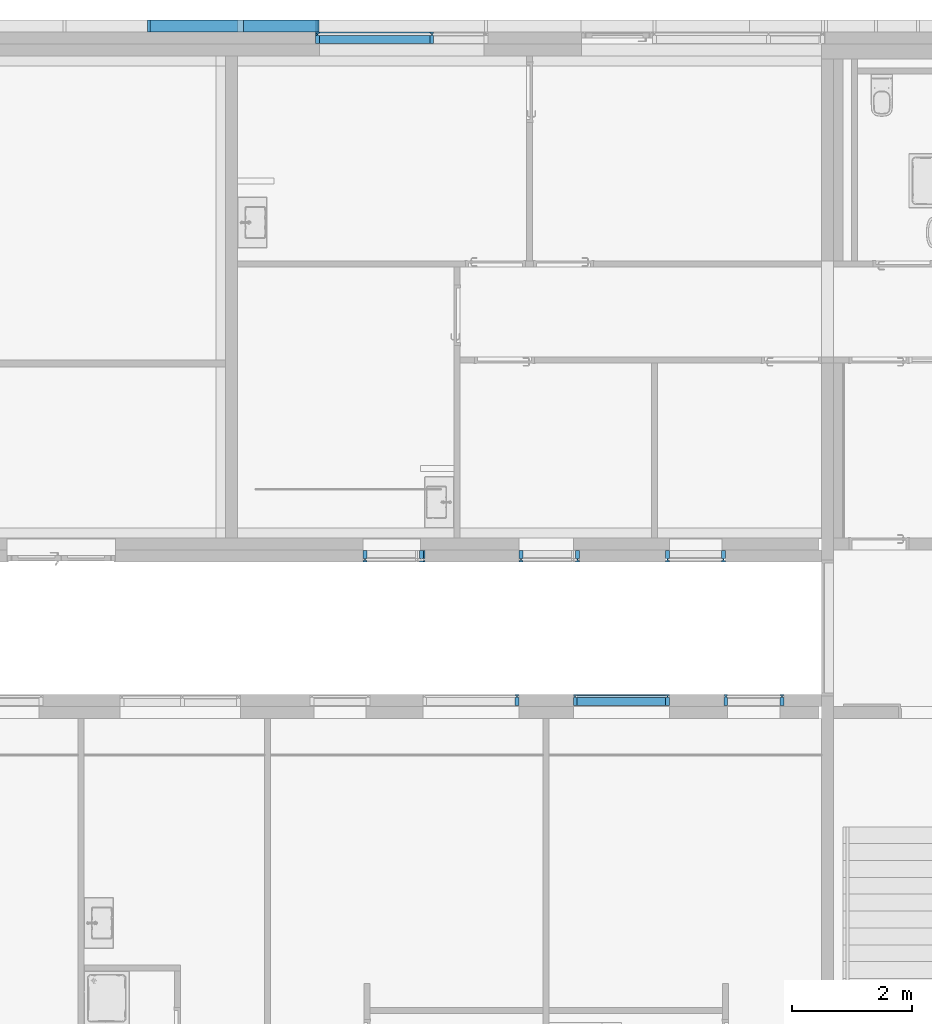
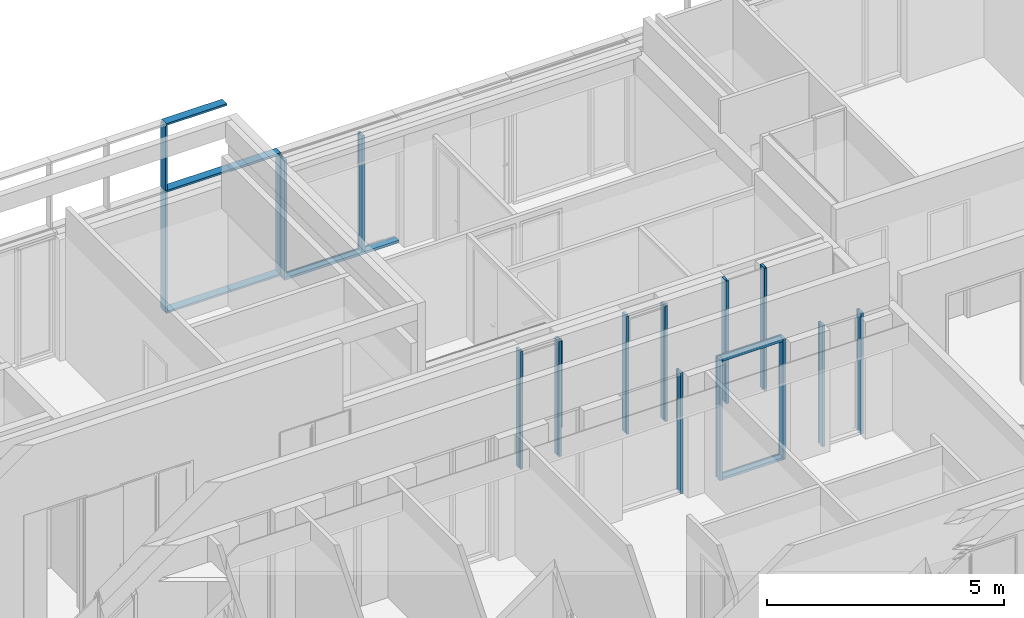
# One storey, part 15 of 240: 26 members, 8 elements without a shape of their own.
"""IFC2X3 building model written with IfcOpenShell, lengths in centimetres."""

from ifc_helpers import new_model, entity, si_unit, converted_unit, derived_unit, direction, frame, origin, origin_2d_with_axis, place, context, subcontext, project, spatial, polyline, rectangle, outline, extrude, source, transform, mapped, material, type_object, type_shapes, element, aggregate, save


model = new_model("IFC2X3")

# Units and contexts
model_context = context("Model", 3, precision=0.001, world=origin(), true_north=direction((6.12303176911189e-17, 1.0)))
body_context = subcontext(model_context, "Body", "Model", "MODEL_VIEW")
ifc_project = project(units=[si_unit("LENGTHUNIT", "METRE", prefix="CENTI"), si_unit("AREAUNIT", "SQUARE_METRE"), si_unit("VOLUMEUNIT", "CUBIC_METRE"), converted_unit("PLANEANGLEUNIT", "DEGREE", entity("IfcRatioMeasure", 0.0174532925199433), si_unit("PLANEANGLEUNIT", "RADIAN"), dimensions=[0, 0, 0, 0, 0, 0, 0]), si_unit("MASSUNIT", "GRAM", prefix="KILO"), derived_unit("MASSDENSITYUNIT", [(si_unit("MASSUNIT", "GRAM", prefix="KILO"), 1), (si_unit("LENGTHUNIT", "METRE"), -3)]), si_unit("TIMEUNIT", "SECOND"), si_unit("FREQUENCYUNIT", "HERTZ"), si_unit("THERMODYNAMICTEMPERATUREUNIT", "DEGREE_CELSIUS"), derived_unit("THERMALTRANSMITTANCEUNIT", [(si_unit("MASSUNIT", "GRAM", prefix="KILO"), 1), (si_unit("THERMODYNAMICTEMPERATUREUNIT", "KELVIN"), -1), (si_unit("TIMEUNIT", "SECOND"), -3)]), derived_unit("VOLUMETRICFLOWRATEUNIT", [(si_unit("LENGTHUNIT", "METRE"), 3), (si_unit("TIMEUNIT", "SECOND"), -1)]), si_unit("ELECTRICCURRENTUNIT", "AMPERE"), si_unit("ELECTRICVOLTAGEUNIT", "VOLT"), si_unit("POWERUNIT", "WATT"), si_unit("FORCEUNIT", "NEWTON", prefix="KILO"), si_unit("ILLUMINANCEUNIT", "LUX"), si_unit("LUMINOUSFLUXUNIT", "LUMEN"), si_unit("LUMINOUSINTENSITYUNIT", "CANDELA"), derived_unit("USERDEFINED", [(si_unit("MASSUNIT", "GRAM", prefix="KILO"), -1), (si_unit("LENGTHUNIT", "METRE"), -2), (si_unit("TIMEUNIT", "SECOND"), 3), (si_unit("LUMINOUSFLUXUNIT", "LUMEN"), 1)]), derived_unit("LINEARVELOCITYUNIT", [(si_unit("LENGTHUNIT", "METRE"), 1), (si_unit("TIMEUNIT", "SECOND"), -1)]), si_unit("PRESSUREUNIT", "PASCAL"), derived_unit("USERDEFINED", [(si_unit("LENGTHUNIT", "METRE"), -2), (si_unit("MASSUNIT", "GRAM", prefix="KILO"), 1), (si_unit("TIMEUNIT", "SECOND"), -2)])], contexts=[model_context])

# Site, building, storey
site_placement = place(None, frame((-2781.94577612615, 7442.24238424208, 0.0)))
site = spatial("IfcSite", under=ifc_project, at=site_placement, Name="Default", CompositionType="ELEMENT")
building_placement = place(site_placement, origin())
building = spatial("IfcBuilding", under=site, at=building_placement, CompositionType="ELEMENT")
storey_placement = place(building_placement, origin())
storey = spatial("IfcBuildingStorey", under=building, at=storey_placement, Name="N00 - COO", CompositionType="ELEMENT", Elevation=0.0)

# Curtain wall, members
curtain_wall_type_1 = type_object("IfcCurtainWallType", Name="Mur-rideau:07 - mur rideau trame 280 cm", PredefinedType="NOTDEFINED")
curtain_wall_1_placement = place(building_placement, origin())
curtain_wall_1 = element("IfcCurtainWall", 1, at=curtain_wall_1_placement, inside=storey, type_object=curtain_wall_type_1, Name="Mur-rideau:07 - mur rideau trame 280 cm", ObjectType="Mur-rideau:07 - mur rideau trame 280 cm")
ifc_material = material(Name="Aluminium")
member_type_1 = type_object("IfcMemberType", Name="150 x 25mm Détails", PredefinedType="MEMBER")
shared_shape_1 = source(origin(), body_context, "Body", "SweptSolid", [
    extrude(outline(polyline([(-13.3333333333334, -3.25000000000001), (0.166666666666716, -3.25000000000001), (0.166666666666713, -0.86874999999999), (3.66666666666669, -0.86874999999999), (3.66666666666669, -3.24999999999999), (5.66666666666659, -3.24999999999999), (5.66666666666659, 3.25), (3.66666666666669, 3.25), (3.66666666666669, 0.868749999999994), (0.166666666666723, 0.868749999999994), (0.166666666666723, 3.25000000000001), (-13.3333333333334, 3.24999999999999), (-13.3333333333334, -3.25000000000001)])), frame((-3.24999999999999, 1.96666666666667, -312.5), z_axis=(0.0, 0.0, 1.0), x_axis=(0.0, -1.0, 0.0)), (0.0, 0.0, 1.0), 312.5),
])
type_shapes(member_type_1, [shared_shape_1])
member_1_placement = place(building_placement, frame((-8491.99987766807, -1073.69999990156, 0.0), z_axis=(0.0, 0.0, -1.0), x_axis=(1.0, 0.0, 0.0)))
member_1 = element("IfcMember", 2, at=member_1_placement, type_object=member_type_1, material=ifc_material, Name="Meneau rectangulaire:150 x 25mm Détails", ObjectType="Meneau rectangulaire:150 x 25mm Détails", context=body_context, shape_type="MappedRepresentation", body=[
    mapped(shared_shape_1, transform((0.0, 0.0, 0.0), scale=1.0)),
])
member_type_2 = type_object("IfcMemberType", Name="150 x 25mm Détails", PredefinedType="MEMBER")
shared_shape_2 = source(origin(), body_context, "Body", "SweptSolid", [
    extrude(outline(polyline([(-13.3333333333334, -3.24999999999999), (0.166666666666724, -3.24999999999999), (0.166666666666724, -0.868749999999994), (3.66666666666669, -0.868749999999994), (3.66666666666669, -3.25), (5.6666666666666, -3.25), (5.6666666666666, 3.24999999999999), (3.66666666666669, 3.24999999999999), (3.66666666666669, 0.86874999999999), (0.166666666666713, 0.86874999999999), (0.166666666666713, 3.25000000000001), (-13.3333333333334, 3.25000000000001), (-13.3333333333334, -3.24999999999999)])), frame((-3.24999999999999, 1.96666666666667, -312.5), z_axis=(0.0, 0.0, 1.0), x_axis=(0.0, -1.0, 0.0)), (0.0, 0.0, 1.0), 312.5),
])
type_shapes(member_type_2, [shared_shape_2])
member_2_placement = place(building_placement, frame((-8591.99987766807, -1073.69999990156, 312.5), z_axis=(0.0, 0.0, 1.0), x_axis=(-1.0, 0.0, 0.0)))
member_2 = element("IfcMember", 3, at=member_2_placement, type_object=member_type_2, material=ifc_material, Name="Meneau rectangulaire:150 x 25mm Détails", ObjectType="Meneau rectangulaire:150 x 25mm Détails", context=body_context, shape_type="MappedRepresentation", body=[
    mapped(shared_shape_2, transform((0.0, 0.0, 0.0), scale=1.0)),
])
aggregate(curtain_wall_1, [member_1, member_2])

# Curtain wall, member
curtain_wall_type_2 = type_object("IfcCurtainWallType", Name="Mur-rideau:07 - mur rideau trame 280 cm RDC maintenance", PredefinedType="NOTDEFINED")
curtain_wall_2_placement = place(building_placement, origin())
curtain_wall_2 = element("IfcCurtainWall", 4, at=curtain_wall_2_placement, inside=storey, type_object=curtain_wall_type_2, Name="Mur-rideau:07 - mur rideau trame 280 cm RDC maintenance", ObjectType="Mur-rideau:07 - mur rideau trame 280 cm RDC maintenance")
member_type_3 = type_object("IfcMemberType", Name="150 x 25mm Détails", PredefinedType="MEMBER")
shared_shape_3 = source(origin(), body_context, "Body", "SweptSolid", [
    extrude(outline(polyline([(-13.3333333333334, -3.25000000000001), (0.166666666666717, -3.25000000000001), (0.166666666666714, -0.86874999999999), (3.66666666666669, -0.86874999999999), (3.66666666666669, -3.24999999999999), (5.6666666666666, -3.24999999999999), (5.6666666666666, 3.25), (3.66666666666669, 3.25), (3.66666666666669, 0.868749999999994), (0.166666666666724, 0.868749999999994), (0.166666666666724, 3.25000000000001), (-13.3333333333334, 3.24999999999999), (-13.3333333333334, -3.25000000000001)])), frame((-3.24999999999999, 1.96666666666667, -299.5), z_axis=(0.0, 0.0, 1.0), x_axis=(0.0, -1.0, 0.0)), (0.0, 0.0, 1.0), 299.5),
])
type_shapes(member_type_3, [shared_shape_3])
member_3_placement = place(building_placement, frame((-9073.74987766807, 26.2000000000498, 6.49999999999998), z_axis=(0.0, 0.0, -1.0), x_axis=(1.0, 0.0, 0.0)))
member_3 = element("IfcMember", 5, at=member_3_placement, type_object=member_type_3, material=ifc_material, Name="Meneau rectangulaire:150 x 25mm Détails", ObjectType="Meneau rectangulaire:150 x 25mm Détails", context=body_context, shape_type="MappedRepresentation", body=[
    mapped(shared_shape_3, transform((0.0, 0.0, 0.0), scale=1.0)),
])

curtain_wall_type_3 = type_object("IfcCurtainWallType", Name="Mur-rideau:07 - mur rideau trame 160cm", PredefinedType="NOTDEFINED")
curtain_wall_3_placement = place(building_placement, origin())
curtain_wall_3 = element("IfcCurtainWall", 6, at=curtain_wall_3_placement, inside=storey, type_object=curtain_wall_type_3, Name="Mur-rideau:07 - mur rideau trame 160cm", ObjectType="Mur-rideau:07 - mur rideau trame 160cm")
member_type_4 = type_object("IfcMemberType", Name="150 x 25mm Détails", PredefinedType="MEMBER")
shared_shape_4 = source(origin(), body_context, "Body", "SweptSolid", [
    extrude(outline(polyline([(-5.6666666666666, -3.24999999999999), (-3.66666666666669, -3.24999999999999), (-3.66666666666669, -0.868749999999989), (-0.166666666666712, -0.868749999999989), (-0.166666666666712, -3.25000000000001), (13.3333333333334, -3.25000000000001), (13.3333333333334, 3.24999999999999), (-0.16666666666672, 3.24999999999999), (-0.16666666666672, 0.868749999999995), (-3.66666666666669, 0.868749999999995), (-3.66666666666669, 3.25), (-5.6666666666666, 3.25), (-5.6666666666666, -3.24999999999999)])), frame((-3.24999999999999, -1.96666666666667, -312.5), z_axis=(0.0, 0.0, 1.0), x_axis=(0.0, -1.0, 0.0)), (0.0, 0.0, 1.0), 312.5),
])
type_shapes(member_type_4, [shared_shape_4])
member_4_placement = place(building_placement, frame((-8841.99987766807, -1073.69999990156, 0.0), z_axis=(0.0, 0.0, -1.0), x_axis=(-1.0, 0.0, 0.0)))
member_4 = element("IfcMember", 7, at=member_4_placement, type_object=member_type_4, material=ifc_material, Name="Meneau rectangulaire:150 x 25mm Détails", ObjectType="Meneau rectangulaire:150 x 25mm Détails", context=body_context, shape_type="MappedRepresentation", body=[
    mapped(shared_shape_4, transform((0.0, 0.0, 0.0), scale=1.0)),
])

# Member
member_type_5 = type_object("IfcMemberType", Name="150 x 25mm Détails", PredefinedType="MEMBER")
shared_shape_5 = source(origin(), body_context, "Body", "SweptSolid", [
    extrude(outline(polyline([(-13.3333333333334, -3.24999999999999), (0.166666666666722, -3.24999999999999), (0.166666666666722, -0.868749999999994), (3.66666666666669, -0.868749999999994), (3.66666666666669, -3.25), (5.66666666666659, -3.25), (5.66666666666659, 3.24999999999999), (3.66666666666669, 3.24999999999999), (3.66666666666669, 0.86874999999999), (0.166666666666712, 0.86874999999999), (0.166666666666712, 3.25000000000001), (-13.3333333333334, 3.25000000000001), (-13.3333333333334, -3.24999999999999)])), frame((-3.24999999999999, 1.96666666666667, -280.0), z_axis=(0.0, 0.0, 1.0), x_axis=(0.0, -1.0, 0.0)), (0.0, 0.0, 1.0), 280.00000003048),
])
type_shapes(member_type_5, [shared_shape_5])
member_5_placement = place(building_placement, frame((-9270.24987766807, 26.2000000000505, 0.0), z_axis=(-1.0, 0.0, 0.0), x_axis=(0.0, 0.0, -1.0)))
member_5 = element("IfcMember", 8, at=member_5_placement, type_object=member_type_5, material=ifc_material, Name="Meneau rectangulaire:150 x 25mm Détails", ObjectType="Meneau rectangulaire:150 x 25mm Détails", context=body_context, shape_type="MappedRepresentation", body=[
    mapped(shared_shape_5, transform((0.0, 0.0, 0.0), scale=1.0)),
])

member_type_6 = type_object("IfcMemberType", Name="150 x 25mm Détails", PredefinedType="MEMBER")
shared_shape_6 = source(origin(), body_context, "Body", "SweptSolid", [
    extrude(outline(polyline([(-13.3333333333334, -3.24999999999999), (0.166666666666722, -3.24999999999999), (0.166666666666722, -0.868749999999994), (3.66666666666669, -0.868749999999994), (3.66666666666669, -3.25), (5.66666666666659, -3.25), (5.66666666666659, 3.24999999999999), (3.66666666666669, 3.24999999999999), (3.66666666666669, 0.86874999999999), (0.166666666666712, 0.86874999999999), (0.166666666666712, 3.25000000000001), (-13.3333333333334, 3.25000000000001), (-13.3333333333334, -3.24999999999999)])), frame((-3.24999999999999, 1.96666666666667, -303.500000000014), z_axis=(0.0, 0.0, 1.0), x_axis=(0.0, -1.0, 0.0)), (0.0, 0.0, 1.0), 303.500000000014),
])
type_shapes(member_type_6, [shared_shape_6])
member_6_placement = place(building_placement, frame((-9270.24987766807, 26.2000000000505, 310.0), z_axis=(0.0, 0.0, 1.0), x_axis=(-1.0, 0.0, 0.0)))
member_6 = element("IfcMember", 9, at=member_6_placement, type_object=member_type_6, material=ifc_material, Name="Meneau rectangulaire:150 x 25mm Détails", ObjectType="Meneau rectangulaire:150 x 25mm Détails", context=body_context, shape_type="MappedRepresentation", body=[
    mapped(shared_shape_6, transform((0.0, 0.0, 0.0), scale=1.0)),
])

aggregate(curtain_wall_2, [member_5, member_3, member_6])

# Curtain wall, members
curtain_wall_type_4 = type_object("IfcCurtainWallType", Name="Mur-rideau:Epines - 200x50mm", PredefinedType="NOTDEFINED")
curtain_wall_4_placement = place(building_placement, origin())
curtain_wall_4 = element("IfcCurtainWall", 10, at=curtain_wall_4_placement, inside=storey, type_object=curtain_wall_type_4, Name="Mur-rideau:Epines - 200x50mm", ObjectType="Mur-rideau:Epines - 200x50mm")
member_type_7 = type_object("IfcMemberType", Name="200x50 mm", PredefinedType="MEMBER")
shared_shape_7 = source(origin(), body_context, "Body", "SweptSolid", [
    extrude(rectangle(XDim=20.0, YDim=5.0, at=origin_2d_with_axis()), frame((0.0, 0.0, -307.5), z_axis=(0.0, 0.0, 1.0), x_axis=(0.0, -1.0, 0.0)), (0.0, 0.0, 1.0), 307.5),
])
type_shapes(member_type_7, [shared_shape_7])
member_7_placement = place(building_placement, frame((-9546.99987766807, 40.0, 5.0), z_axis=(0.0, 0.0, -1.0), x_axis=(1.0, 0.0, 0.0)))
member_7 = element("IfcMember", 11, at=member_7_placement, type_object=member_type_7, material=ifc_material, Name="Meneau rectangulaire:200x50 mm", ObjectType="Meneau rectangulaire:200x50 mm", context=body_context, shape_type="MappedRepresentation", body=[
    mapped(shared_shape_7, transform((0.0, 0.0, 0.0), scale=1.0)),
])
member_8_placement = place(building_placement, frame((-9266.99987766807, 40.0, 5.0), z_axis=(0.0, 0.0, -1.0), x_axis=(1.0, 0.0, 0.0)))
member_8 = element("IfcMember", 12, at=member_8_placement, type_object=member_type_7, material=ifc_material, Name="Meneau rectangulaire:200x50 mm", ObjectType="Meneau rectangulaire:200x50 mm", context=body_context, shape_type="MappedRepresentation", body=[
    mapped(shared_shape_7, transform((0.0, 0.0, 0.0), scale=1.0)),
])
member_type_8 = type_object("IfcMemberType", Name="200x50 mm", PredefinedType="MEMBER")
shared_shape_8 = source(origin(), body_context, "Body", "SweptSolid", [
    extrude(rectangle(XDim=20.0, YDim=5.0, at=origin_2d_with_axis()), frame((-2.5, 0.0, -157.50000006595), z_axis=(0.0, 0.0, 1.0), x_axis=(0.0, -1.0, 0.0)), (0.0, 0.0, 1.0), 157.50000006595),
])
type_shapes(member_type_8, [shared_shape_8])
member_9_placement = place(building_placement, frame((-9546.99987766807, 40.0, 0.0), z_axis=(-1.0, 0.0, 0.0), x_axis=(0.0, 0.0, -1.0)))
member_9 = element("IfcMember", 13, at=member_9_placement, type_object=member_type_8, material=ifc_material, Name="Meneau rectangulaire:200x50 mm", ObjectType="Meneau rectangulaire:200x50 mm", context=body_context, shape_type="MappedRepresentation", body=[
    mapped(shared_shape_8, transform((0.0, 0.0, 0.0), scale=1.0)),
])
member_type_9 = type_object("IfcMemberType", Name="200x50 mm", PredefinedType="MEMBER")
shared_shape_9 = source(origin(), body_context, "Body", "SweptSolid", [
    extrude(rectangle(XDim=20.0, YDim=5.0, at=origin_2d_with_axis()), frame((0.0, 0.0, -157.500000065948), z_axis=(0.0, 0.0, 1.0), x_axis=(0.0, -1.0, 0.0)), (0.0, 0.0, 1.0), 157.500000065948),
])
type_shapes(member_type_9, [shared_shape_9])
member_10_placement = place(building_placement, frame((-9389.49987760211, 40.0, 315.0), z_axis=(1.0, 0.0, 0.0), x_axis=(0.0, 0.0, 1.0)))
member_10 = element("IfcMember", 14, at=member_10_placement, type_object=member_type_9, material=ifc_material, Name="Meneau rectangulaire:200x50 mm", ObjectType="Meneau rectangulaire:200x50 mm", context=body_context, shape_type="MappedRepresentation", body=[
    mapped(shared_shape_9, transform((0.0, 0.0, 0.0), scale=1.0)),
])
member_type_10 = type_object("IfcMemberType", Name="200x50 mm", PredefinedType="MEMBER")
shared_shape_10 = source(origin(), body_context, "Body", "SweptSolid", [
    extrude(rectangle(XDim=20.0, YDim=5.0, at=origin_2d_with_axis()), frame((-2.5, 0.0, -122.499999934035), z_axis=(0.0, 0.0, 1.0), x_axis=(0.0, -1.0, 0.0)), (0.0, 0.0, 1.0), 122.499999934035),
])
type_shapes(member_type_10, [shared_shape_10])
member_11_placement = place(building_placement, frame((-9266.99987766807, 40.0, 316.500000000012), z_axis=(1.0, 0.0, 0.0), x_axis=(0.0, 0.0, 1.0)))
member_11 = element("IfcMember", 15, at=member_11_placement, type_object=member_type_10, material=ifc_material, Name="Meneau rectangulaire:200x50 mm", ObjectType="Meneau rectangulaire:200x50 mm", context=body_context, shape_type="MappedRepresentation", body=[
    mapped(shared_shape_10, transform((0.0, 0.0, 0.0), scale=1.0)),
])
member_type_11 = type_object("IfcMemberType", Name="200x50 mm", PredefinedType="MEMBER")
shared_shape_11 = source(origin(), body_context, "Body", "SweptSolid", [
    extrude(rectangle(XDim=20.0, YDim=5.0, at=origin_2d_with_axis()), frame((-2.5, 0.0, -122.499999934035), z_axis=(0.0, 0.0, 1.0), x_axis=(0.0, -1.0, 0.0)), (0.0, 0.0, 1.0), 122.499999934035),
])
type_shapes(member_type_11, [shared_shape_11])
member_12_placement = place(building_placement, frame((-9389.49987760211, 40.0, 0.0), z_axis=(-1.0, 0.0, 0.0), x_axis=(0.0, 0.0, -1.0)))
member_12 = element("IfcMember", 16, at=member_12_placement, type_object=member_type_11, material=ifc_material, Name="Meneau rectangulaire:200x50 mm", ObjectType="Meneau rectangulaire:200x50 mm", context=body_context, shape_type="MappedRepresentation", body=[
    mapped(shared_shape_11, transform((0.0, 0.0, 0.0), scale=1.0)),
])
member_type_12 = type_object("IfcMemberType", Name="200x50 mm", PredefinedType="MEMBER")
shared_shape_12 = source(origin(), body_context, "Body", "SweptSolid", [
    extrude(rectangle(XDim=20.0, YDim=5.0, at=origin_2d_with_axis()), frame((0.0, 0.0, -122.499999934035), z_axis=(0.0, 0.0, 1.0), x_axis=(0.0, -1.0, 0.0)), (0.0, 0.0, 1.0), 122.499999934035),
])
type_shapes(member_type_12, [shared_shape_12])
member_13_placement = place(building_placement, frame((-9266.99987766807, 40.0, 315.0), z_axis=(1.0, 0.0, 0.0), x_axis=(0.0, 0.0, 1.0)))
member_13 = element("IfcMember", 17, at=member_13_placement, type_object=member_type_12, material=ifc_material, Name="Meneau rectangulaire:200x50 mm", ObjectType="Meneau rectangulaire:200x50 mm", context=body_context, shape_type="MappedRepresentation", body=[
    mapped(shared_shape_12, transform((0.0, 0.0, 0.0), scale=1.0)),
])
member_type_13 = type_object("IfcMemberType", Name="200x50 mm", PredefinedType="MEMBER")
shared_shape_13 = source(origin(), body_context, "Body", "SweptSolid", [
    extrude(rectangle(XDim=20.0, YDim=5.0, at=origin_2d_with_axis()), frame((0.0, 0.0, -167.499999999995), z_axis=(0.0, 0.0, 1.0), x_axis=(0.0, -1.0, 0.0)), (0.0, 0.0, 1.0), 167.499999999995),
])
type_shapes(member_type_13, [shared_shape_13])
member_14_placement = place(building_placement, frame((-9546.99987766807, 40.0, 317.5), z_axis=(0.0, 0.0, -1.0), x_axis=(1.0, 0.0, 0.0)))
member_14 = element("IfcMember", 18, at=member_14_placement, type_object=member_type_13, material=ifc_material, Name="Meneau rectangulaire:200x50 mm", ObjectType="Meneau rectangulaire:200x50 mm", context=body_context, shape_type="MappedRepresentation", body=[
    mapped(shared_shape_13, transform((0.0, 0.0, 0.0), scale=1.0)),
])
member_type_14 = type_object("IfcMemberType", Name="200x50 mm", PredefinedType="MEMBER")
shared_shape_14 = source(origin(), body_context, "Body", "SweptSolid", [
    extrude(rectangle(XDim=20.0, YDim=5.0, at=origin_2d_with_axis()), frame((-2.5, 0.0, -147.499999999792), z_axis=(0.0, 0.0, 1.0), x_axis=(0.0, -1.0, 0.0)), (0.0, 0.0, 1.0), 147.499999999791),
])
type_shapes(member_type_14, [shared_shape_14])
member_15_placement = place(building_placement, frame((-9399.49987766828, 40.0, 490.0), z_axis=(1.0, 0.0, 0.0), x_axis=(0.0, 0.0, 1.0)))
member_15 = element("IfcMember", 19, at=member_15_placement, type_object=member_type_14, material=ifc_material, Name="Meneau rectangulaire:200x50 mm", ObjectType="Meneau rectangulaire:200x50 mm", context=body_context, shape_type="MappedRepresentation", body=[
    mapped(shared_shape_14, transform((0.0, 0.0, 0.0), scale=1.0)),
])
aggregate(curtain_wall_4, [member_7, member_9, member_10, member_11, member_8, member_12, member_13, member_15, member_14])

# Curtain wall, member
curtain_wall_type_5 = type_object("IfcCurtainWallType", Name="Mur-rideau:07 - mur rideau trame 90 cm", PredefinedType="NOTDEFINED")
curtain_wall_5_placement = place(storey_placement, origin())
curtain_wall_5 = element("IfcCurtainWall", 20, at=curtain_wall_5_placement, inside=storey, type_object=curtain_wall_type_5, Name="Mur-rideau:07 - mur rideau trame 90 cm", ObjectType="Mur-rideau:07 - mur rideau trame 90 cm")
member_type_15 = type_object("IfcMemberType", Name="150 x 25mm Détails", PredefinedType="MEMBER")
shared_shape_15 = source(origin(), body_context, "Body", "SweptSolid", [
    extrude(outline(polyline([(-5.6666666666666, -3.24999999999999), (-3.66666666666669, -3.24999999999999), (-3.66666666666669, -0.868749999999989), (-0.166666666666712, -0.868749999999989), (-0.166666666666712, -3.25000000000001), (13.3333333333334, -3.25000000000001), (13.3333333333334, 3.24999999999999), (-0.16666666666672, 3.24999999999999), (-0.16666666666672, 0.868749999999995), (-3.66666666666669, 0.868749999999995), (-3.66666666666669, 3.25), (-5.6666666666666, 3.25), (-5.6666666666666, -3.24999999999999)])), frame((-3.24999999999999, -1.96666666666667, -298.0), z_axis=(0.0, 0.0, 1.0), x_axis=(0.0, -1.0, 0.0)), (0.0, 0.0, 1.0), 298.0),
])
type_shapes(member_type_15, [shared_shape_15])
member_16_placement = place(storey_placement, frame((-9090.99987760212, -846.34850098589, 6.49999999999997), z_axis=(0.0, 0.0, -1.0), x_axis=(1.0, 0.0, 0.0)))
member_16 = element("IfcMember", 21, at=member_16_placement, type_object=member_type_15, material=ifc_material, Name="Meneau rectangulaire:150 x 25mm Détails", ObjectType="Meneau rectangulaire:150 x 25mm Détails", context=body_context, shape_type="MappedRepresentation", body=[
    mapped(shared_shape_15, transform((0.0, 0.0, 0.0), scale=1.0)),
])

curtain_wall_6_placement = place(storey_placement, origin())
curtain_wall_6 = element("IfcCurtainWall", 22, at=curtain_wall_6_placement, inside=storey, type_object=curtain_wall_type_5, Name="Mur-rideau:07 - mur rideau trame 90 cm", ObjectType="Mur-rideau:07 - mur rideau trame 90 cm")
member_17_placement = place(storey_placement, frame((-8831.99987766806, -846.348500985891, 6.49999999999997), z_axis=(0.0, 0.0, -1.0), x_axis=(1.0, 0.0, 0.0)))
member_17 = element("IfcMember", 23, at=member_17_placement, type_object=member_type_15, material=ifc_material, Name="Meneau rectangulaire:150 x 25mm Détails", ObjectType="Meneau rectangulaire:150 x 25mm Détails", context=body_context, shape_type="MappedRepresentation", body=[
    mapped(shared_shape_15, transform((0.0, 0.0, 0.0), scale=1.0)),
])

# Member
member_type_16 = type_object("IfcMemberType", Name="150 x 25mm Détails", PredefinedType="MEMBER")
shared_shape_16 = source(origin(), body_context, "Body", "SweptSolid", [
    extrude(outline(polyline([(-5.66666666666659, -3.24999999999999), (-3.66666666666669, -3.24999999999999), (-3.66666666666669, -0.868749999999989), (-0.166666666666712, -0.868749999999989), (-0.166666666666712, -3.25000000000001), (13.3333333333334, -3.25000000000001), (13.3333333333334, 3.24999999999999), (-0.166666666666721, 3.24999999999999), (-0.166666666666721, 0.868749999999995), (-3.66666666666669, 0.868749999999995), (-3.66666666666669, 3.25), (-5.66666666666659, 3.25), (-5.66666666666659, -3.24999999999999)])), frame((-3.24999999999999, -1.96666666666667, -147.0), z_axis=(0.0, 0.0, 1.0), x_axis=(0.0, -1.0, 0.0)), (0.0, 0.0, 1.0), 147.0),
])
type_shapes(member_type_16, [shared_shape_16])
member_18_placement = place(building_placement, frame((-8835.49987766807, -1073.69999990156, 312.5), z_axis=(-1.0, 0.0, 0.0), x_axis=(0.0, 0.0, 1.0)))
member_18 = element("IfcMember", 24, at=member_18_placement, type_object=member_type_16, material=ifc_material, Name="Meneau rectangulaire:150 x 25mm Détails", ObjectType="Meneau rectangulaire:150 x 25mm Détails", context=body_context, shape_type="MappedRepresentation", body=[
    mapped(shared_shape_16, transform((0.0, 0.0, 0.0), scale=1.0)),
])

member_type_17 = type_object("IfcMemberType", Name="150 x 25mm Détails", PredefinedType="MEMBER")
shared_shape_17 = source(origin(), body_context, "Body", "SweptSolid", [
    extrude(outline(polyline([(-5.66666666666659, -3.25), (-3.66666666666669, -3.25), (-3.66666666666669, -0.868749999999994), (-0.166666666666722, -0.868749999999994), (-0.166666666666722, -3.25000000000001), (13.3333333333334, -3.24999999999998), (13.3333333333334, 3.25000000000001), (-0.166666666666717, 3.25000000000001), (-0.166666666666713, 0.868749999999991), (-3.66666666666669, 0.868749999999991), (-3.66666666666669, 3.24999999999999), (-5.66666666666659, 3.24999999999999), (-5.66666666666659, -3.25)])), frame((-3.24999999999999, -1.96666666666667, -147.0), z_axis=(0.0, 0.0, 1.0), x_axis=(0.0, -1.0, 0.0)), (0.0, 0.0, 1.0), 147.0),
])
type_shapes(member_type_17, [shared_shape_17])
member_19_placement = place(building_placement, frame((-8688.49987766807, -1073.69999990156, 0.0), z_axis=(1.0, 0.0, 0.0), x_axis=(0.0, 0.0, -1.0)))
member_19 = element("IfcMember", 25, at=member_19_placement, type_object=member_type_17, material=ifc_material, Name="Meneau rectangulaire:150 x 25mm Détails", ObjectType="Meneau rectangulaire:150 x 25mm Détails", context=body_context, shape_type="MappedRepresentation", body=[
    mapped(shared_shape_17, transform((0.0, 0.0, 0.0), scale=1.0)),
])

member_type_18 = type_object("IfcMemberType", Name="150 x 25mm Détails", PredefinedType="MEMBER")
shared_shape_18 = source(origin(), body_context, "Body", "SweptSolid", [
    extrude(outline(polyline([(-5.66666666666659, -3.25), (-3.66666666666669, -3.25), (-3.66666666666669, -0.868749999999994), (-0.166666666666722, -0.868749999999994), (-0.166666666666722, -3.25000000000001), (13.3333333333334, -3.24999999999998), (13.3333333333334, 3.25000000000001), (-0.166666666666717, 3.25000000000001), (-0.166666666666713, 0.868749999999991), (-3.66666666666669, 0.868749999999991), (-3.66666666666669, 3.24999999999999), (-5.66666666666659, 3.24999999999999), (-5.66666666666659, -3.25)])), frame((-3.24999999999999, -1.96666666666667, -312.5), z_axis=(0.0, 0.0, 1.0), x_axis=(0.0, -1.0, 0.0)), (0.0, 0.0, 1.0), 312.5),
])
type_shapes(member_type_18, [shared_shape_18])
member_20_placement = place(building_placement, frame((-8681.99987766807, -1073.69999990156, 312.5)))
member_20 = element("IfcMember", 26, at=member_20_placement, type_object=member_type_18, material=ifc_material, Name="Meneau rectangulaire:150 x 25mm Détails", ObjectType="Meneau rectangulaire:150 x 25mm Détails", context=body_context, shape_type="MappedRepresentation", body=[
    mapped(shared_shape_18, transform((0.0, 0.0, 0.0), scale=1.0)),
])

aggregate(curtain_wall_3, [member_18, member_19, member_4, member_20])

# Curtain wall, member
curtain_wall_7_placement = place(building_placement, origin())
curtain_wall_7 = element("IfcCurtainWall", 27, at=curtain_wall_7_placement, inside=storey, type_object=curtain_wall_type_3, Name="Mur-rideau:07 - mur rideau trame 160cm", ObjectType="Mur-rideau:07 - mur rideau trame 160cm")
member_21_placement = place(building_placement, frame((-8931.99987766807, -1073.69999990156, 312.5)))
member_21 = element("IfcMember", 28, at=member_21_placement, type_object=member_type_18, material=ifc_material, Name="Meneau rectangulaire:150 x 25mm Détails", ObjectType="Meneau rectangulaire:150 x 25mm Détails", context=body_context, shape_type="MappedRepresentation", body=[
    mapped(shared_shape_18, transform((0.0, 0.0, 0.0), scale=1.0)),
])
aggregate(curtain_wall_7, [member_21])

# Member
member_type_19 = type_object("IfcMemberType", Name="150 x 25mm Détails", PredefinedType="MEMBER")
shared_shape_19 = source(origin(), body_context, "Body", "SweptSolid", [
    extrude(outline(polyline([(-5.66666666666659, -3.25), (-3.66666666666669, -3.25), (-3.66666666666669, -0.868749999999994), (-0.166666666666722, -0.868749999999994), (-0.166666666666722, -3.25000000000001), (13.3333333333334, -3.24999999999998), (13.3333333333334, 3.25000000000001), (-0.166666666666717, 3.25000000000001), (-0.166666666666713, 0.868749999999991), (-3.66666666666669, 0.868749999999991), (-3.66666666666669, 3.24999999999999), (-5.66666666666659, 3.24999999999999), (-5.66666666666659, -3.25)])), frame((-3.24999999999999, -1.96666666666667, -304.499999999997), z_axis=(0.0, 0.0, 1.0), x_axis=(0.0, -1.0, 0.0)), (0.0, 0.0, 1.0), 304.499999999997),
])
type_shapes(member_type_19, [shared_shape_19])
member_22_placement = place(storey_placement, frame((-9190.99987760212, -846.348500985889, 311.0), z_axis=(0.0, 0.0, 1.0), x_axis=(-1.0, 0.0, 0.0)))
member_22 = element("IfcMember", 29, at=member_22_placement, type_object=member_type_19, material=ifc_material, Name="Meneau rectangulaire:150 x 25mm Détails", ObjectType="Meneau rectangulaire:150 x 25mm Détails", context=body_context, shape_type="MappedRepresentation", body=[
    mapped(shared_shape_19, transform((0.0, 0.0, 0.0), scale=1.0)),
])

member_23_placement = place(storey_placement, frame((-8931.99987766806, -846.34850098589, 311.0), z_axis=(0.0, 0.0, 1.0), x_axis=(-1.0, 0.0, 0.0)))
member_23 = element("IfcMember", 30, at=member_23_placement, type_object=member_type_19, material=ifc_material, Name="Meneau rectangulaire:150 x 25mm Détails", ObjectType="Meneau rectangulaire:150 x 25mm Détails", context=body_context, shape_type="MappedRepresentation", body=[
    mapped(shared_shape_19, transform((0.0, 0.0, 0.0), scale=1.0)),
])

aggregate(curtain_wall_6, [member_17, member_23])

member_type_20 = type_object("IfcMemberType", Name="150 x 25mm Détails", PredefinedType="MEMBER")
shared_shape_20 = source(origin(), body_context, "Body", "SweptSolid", [
    extrude(outline(polyline([(-5.66666666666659, -3.25), (-3.66666666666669, -3.25), (-3.66666666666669, -0.868749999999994), (-0.166666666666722, -0.868749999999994), (-0.166666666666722, -3.25000000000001), (13.3333333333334, -3.24999999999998), (13.3333333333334, 3.25000000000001), (-0.166666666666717, 3.25000000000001), (-0.166666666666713, 0.868749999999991), (-3.66666666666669, 0.868749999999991), (-3.66666666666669, 3.24999999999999), (-5.66666666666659, 3.24999999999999), (-5.66666666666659, -3.25)])), frame((-3.24999999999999, -1.96666666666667, -224.0), z_axis=(0.0, 0.0, 1.0), x_axis=(0.0, -1.0, 0.0)), (0.0, 0.0, 1.0), 224.0),
])
type_shapes(member_type_20, [shared_shape_20])
member_24_placement = place(storey_placement, frame((-9095.05317911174, -846.34850098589, 304.0), z_axis=(0.0, 0.0, 1.0), x_axis=(-1.0, 0.0, 0.0)))
member_24 = element("IfcMember", 31, at=member_24_placement, type_object=member_type_20, material=ifc_material, Name="Meneau rectangulaire:150 x 25mm Détails", ObjectType="Meneau rectangulaire:150 x 25mm Détails", context=body_context, shape_type="MappedRepresentation", body=[
    mapped(shared_shape_20, transform((0.0, 0.0, 0.0), scale=1.0)),
])

aggregate(curtain_wall_5, [member_16, member_22, member_24])

# Curtain wall, members
curtain_wall_type_6 = type_object("IfcCurtainWallType", Name="Mur-rideau:07 - mur rideau trame 100cm", PredefinedType="NOTDEFINED")
curtain_wall_8_placement = place(storey_placement, origin())
curtain_wall_8 = element("IfcCurtainWall", 32, at=curtain_wall_8_placement, inside=storey, type_object=curtain_wall_type_6, Name="Mur-rideau:07 - mur rideau trame 100cm", ObjectType="Mur-rideau:07 - mur rideau trame 100cm")
member_type_21 = type_object("IfcMemberType", Name="150 x 25mm Détails", PredefinedType="MEMBER")
shared_shape_21 = source(origin(), body_context, "Body", "SweptSolid", [
    extrude(outline(polyline([(-5.6666666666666, -3.24999999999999), (-3.66666666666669, -3.24999999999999), (-3.66666666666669, -0.868749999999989), (-0.166666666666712, -0.868749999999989), (-0.166666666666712, -3.25000000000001), (13.3333333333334, -3.25000000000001), (13.3333333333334, 3.24999999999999), (-0.16666666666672, 3.24999999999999), (-0.16666666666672, 0.868749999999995), (-3.66666666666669, 0.868749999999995), (-3.66666666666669, 3.25), (-5.6666666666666, 3.25), (-5.6666666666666, -3.24999999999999)])), frame((-3.24999999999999, -1.96666666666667, -316.500000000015), z_axis=(0.0, 0.0, 1.0), x_axis=(0.0, -1.0, 0.0)), (0.0, 0.0, 1.0), 316.500000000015),
])
type_shapes(member_type_21, [shared_shape_21])
member_25_placement = place(storey_placement, frame((-8588.94657615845, -846.348500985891, 0.0), z_axis=(0.0, 0.0, -1.0), x_axis=(1.0, 0.0, 0.0)))
member_25 = element("IfcMember", 33, at=member_25_placement, type_object=member_type_21, material=ifc_material, Name="Meneau rectangulaire:150 x 25mm Détails", ObjectType="Meneau rectangulaire:150 x 25mm Détails", context=body_context, shape_type="MappedRepresentation", body=[
    mapped(shared_shape_21, transform((0.0, 0.0, 0.0), scale=1.0)),
])
member_type_22 = type_object("IfcMemberType", Name="150 x 25mm Détails", PredefinedType="MEMBER")
shared_shape_22 = source(origin(), body_context, "Body", "SweptSolid", [
    extrude(outline(polyline([(-5.6666666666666, -3.25), (-3.66666666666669, -3.25), (-3.66666666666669, -0.868749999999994), (-0.166666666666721, -0.868749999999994), (-0.166666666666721, -3.25000000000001), (13.3333333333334, -3.24999999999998), (13.3333333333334, 3.25000000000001), (-0.166666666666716, 3.25000000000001), (-0.166666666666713, 0.868749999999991), (-3.66666666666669, 0.868749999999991), (-3.66666666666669, 3.24999999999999), (-5.6666666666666, 3.24999999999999), (-5.6666666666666, -3.25)])), frame((-3.24999999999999, -1.96666666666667, -316.500000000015), z_axis=(0.0, 0.0, 1.0), x_axis=(0.0, -1.0, 0.0)), (0.0, 0.0, 1.0), 316.500000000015),
])
type_shapes(member_type_22, [shared_shape_22])
member_26_placement = place(storey_placement, frame((-8688.94657615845, -846.348500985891, 316.500000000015), z_axis=(0.0, 0.0, 1.0), x_axis=(-1.0, 0.0, 0.0)))
member_26 = element("IfcMember", 34, at=member_26_placement, type_object=member_type_22, material=ifc_material, Name="Meneau rectangulaire:150 x 25mm Détails", ObjectType="Meneau rectangulaire:150 x 25mm Détails", context=body_context, shape_type="MappedRepresentation", body=[
    mapped(shared_shape_22, transform((0.0, 0.0, 0.0), scale=1.0)),
])
aggregate(curtain_wall_8, [member_25, member_26])

save(model, "model.ifc")
